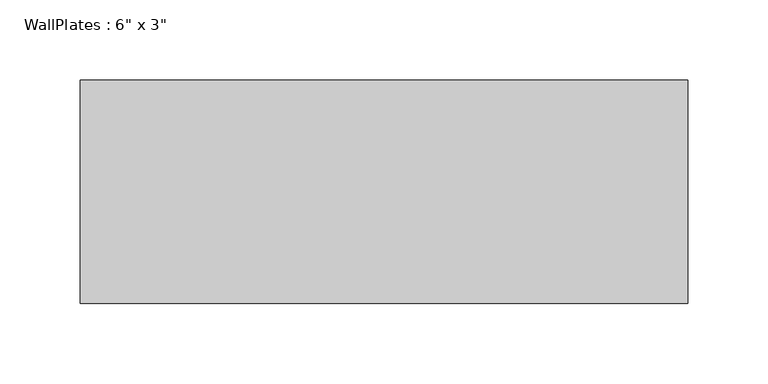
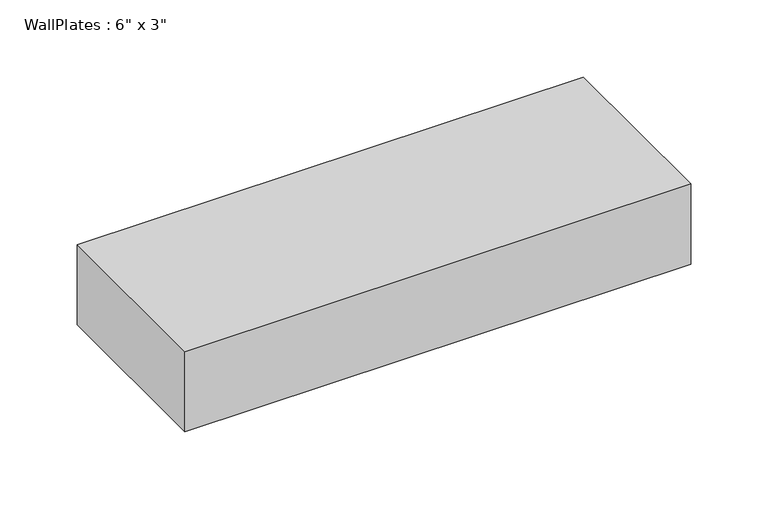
"""IFC4 building model written with IfcOpenShell, lengths in millimetres: beam geometry."""

from ifc_helpers import new_model, si_unit, frame, origin, place, context, project, spatial, polyline, outline, extrude, source, transform, mapped, element, save


def beam_066f0da2(model_context):
    return source(origin(), model_context, "Body", "SweptSolid", [
        extrude(outline(polyline([(-189.7060703, -69.85), (-189.7060703, 69.85), (189.7060703, 69.85), (189.7060703, -69.85), (-189.7060703, -69.85)])), frame((0.0, 0.0, -31.75), z_axis=(0.0, 0.0, 1.0), x_axis=(1.0, 0.0, 0.0)), (0.0, 0.0, 1.0), 63.5),
    ])


if __name__ == "__main__":
    model = new_model("IFC4")
    model_context = context("Model", 3, world=origin())
    ifc_project = project(units=[si_unit("LENGTHUNIT", "METRE", prefix="MILLI")], contexts=[model_context])
    site = spatial("IfcSite", under=ifc_project)
    building = spatial("IfcBuilding", under=site)
    placement = place(None, origin())
    beam_shape = beam_066f0da2(model_context)
    element("IfcBeam", 1, ObjectType="WallPlates : 6\" x 3\"", at=placement, inside=building, context=model_context, shape_type="MappedRepresentation", body=[
        mapped(beam_shape, transform((0.0, 0.0, 0.0), x_axis=(1.0, 0.0, 0.0), y_axis=(0.0, 1.0, 0.0), z_axis=(0.0, 0.0, 1.0))),
    ])
    save(model, "model.ifc")
